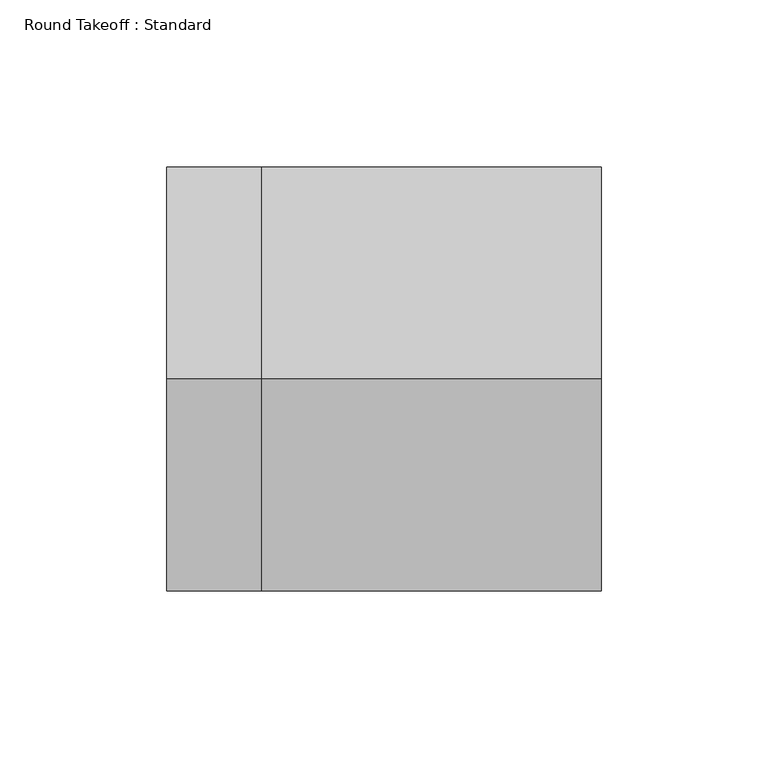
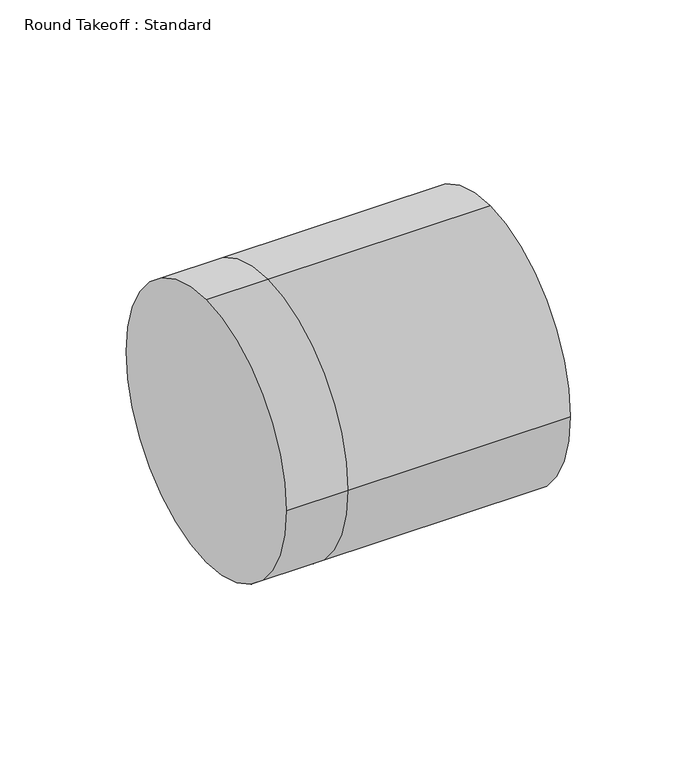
"""IFC4 building model written with IfcOpenShell, lengths in millimetres: duct fitting geometry, Round Takeoff : Standard."""

from ifc_helpers import new_model, si_unit, frame, origin, place, context, project, spatial, circle_curve, source, transform, mapped, element, save
from ifc_brep_helpers import plane_surface, cylinder_surface, advanced_brep


def round_takeoff_standard_272bb003(model_context):
    return source(origin(), model_context, "Body", "AdvancedBrep", [
        advanced_brep(
        [(101.6, 0.0, 63.5), (101.6, -63.5, 0.0), (101.6, 0.0, -63.5), (101.6, 63.5, 0.0), (0.0, 0.0, 63.5), (0.0, -63.5, 0.0), (0.0, 0.0, -63.5), (0.0, 63.5, 0.0), (-28.3845254, 0.0, 63.5), (-28.3845254, 63.5, 0.0), (-28.3845254, 0.0, -63.5), (-28.3845254, -63.5, 0.0)],
        [
            (0, 1, circle_curve(frame((101.6, 0.0, 0.0), z_axis=(1.0, 0.0, 0.0), x_axis=(0.0, -1.0, 0.0)), 63.5)),
            (1, 2, circle_curve(frame((101.6, 0.0, 0.0), z_axis=(1.0, 0.0, 0.0), x_axis=(0.0, -1.0, 0.0)), 63.5)),
            (2, 3, circle_curve(frame((101.6, 0.0, 0.0), z_axis=(1.0, 0.0, 0.0), x_axis=(0.0, -1.0, 0.0)), 63.5)),
            (3, 0, circle_curve(frame((101.6, 0.0, 0.0), z_axis=(1.0, 0.0, 0.0), x_axis=(0.0, -1.0, 0.0)), 63.5)),
            (0, 4),
            (4, 5, circle_curve(frame((0.0, 0.0, 0.0), z_axis=(1.0, 0.0, 0.0), x_axis=(0.0, -1.0, 0.0)), 63.5)),
            (5, 1),
            (5, 6, circle_curve(frame((0.0, 0.0, 0.0), z_axis=(1.0, 0.0, 0.0), x_axis=(0.0, -1.0, 0.0)), 63.5)),
            (6, 2),
            (6, 7, circle_curve(frame((0.0, 0.0, 0.0), z_axis=(1.0, 0.0, 0.0), x_axis=(0.0, -1.0, 0.0)), 63.5)),
            (7, 3),
            (7, 4, circle_curve(frame((0.0, 0.0, 0.0), z_axis=(1.0, 0.0, 0.0), x_axis=(0.0, -1.0, 0.0)), 63.5)),
            (8, 9, circle_curve(frame((-28.3845254, 0.0, 0.0), z_axis=(-1.0, 0.0, 0.0), x_axis=(0.0, -1.0, 0.0)), 63.5)),
            (9, 10, circle_curve(frame((-28.3845254, 0.0, 0.0), z_axis=(-1.0, 0.0, 0.0), x_axis=(0.0, -1.0, 0.0)), 63.5)),
            (10, 11, circle_curve(frame((-28.3845254, 0.0, 0.0), z_axis=(-1.0, 0.0, 0.0), x_axis=(0.0, -1.0, 0.0)), 63.5)),
            (11, 8, circle_curve(frame((-28.3845254, 0.0, 0.0), z_axis=(-1.0, 0.0, 0.0), x_axis=(0.0, -1.0, 0.0)), 63.5)),
            (11, 5),
            (4, 8),
            (10, 6),
            (9, 7),
        ],
        [
            plane_surface(frame((101.6, 0.0, 0.0), z_axis=(1.0, 0.0, 0.0), x_axis=(0.0, 0.0, 1.0))),
            cylinder_surface(frame((0.0, 0.0, 0.0), z_axis=(-1.0, 0.0, 0.0), x_axis=(0.0, -1.0, 0.0)), 63.5),
            plane_surface(frame((-28.3845254, 0.0, 0.0), z_axis=(-1.0, 0.0, 0.0), x_axis=(0.0, 0.0, 1.0))),
            cylinder_surface(frame((-28.3845254, 0.0, 0.0), z_axis=(-1.0, 0.0, 0.0), x_axis=(0.0, -1.0, 0.0)), 63.5),
        ],
        [
            (0, [[1, 2, 3, 4]]),
            (1, [[5, 6, 7, -1]]),
            (1, [[-7, 8, 9, -2]]),
            (1, [[-9, 10, 11, -3]]),
            (1, [[-11, 12, -5, -4]]),
            (2, [[13, 14, 15, 16]]),
            (3, [[17, -6, 18, -16]]),
            (3, [[19, -8, -17, -15]]),
            (3, [[20, -10, -19, -14]]),
            (3, [[-18, -12, -20, -13]]),
        ],
    ),
    ])


if __name__ == "__main__":
    model = new_model("IFC4")
    model_context = context("Model", 3, world=origin())
    ifc_project = project(units=[si_unit("LENGTHUNIT", "METRE", prefix="MILLI")], contexts=[model_context])
    site = spatial("IfcSite", under=ifc_project)
    building = spatial("IfcBuilding", under=site)
    placement = place(None, origin())
    round_takeoff_standard_shape = round_takeoff_standard_272bb003(model_context)
    element("IfcDuctFitting", 1, ObjectType="Round Takeoff : Standard", at=placement, inside=building, context=model_context, shape_type="MappedRepresentation", body=[
        mapped(round_takeoff_standard_shape, transform((0.0, 0.0, 0.0), x_axis=(1.0, 0.0, 0.0), y_axis=(0.0, 1.0, 0.0), z_axis=(0.0, 0.0, 1.0))),
    ])
    save(model, "model.ifc")
